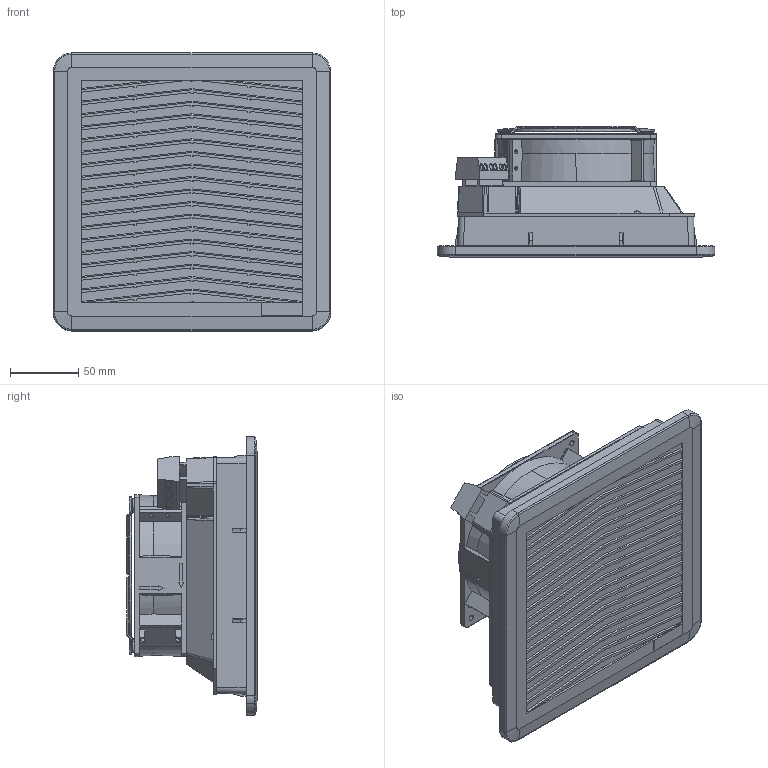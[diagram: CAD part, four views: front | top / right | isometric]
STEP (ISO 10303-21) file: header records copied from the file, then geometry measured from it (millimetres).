
FILE_DESCRIPTION (( 'STEP AP214' ), '1' );
FILE_NAME ('FF13PAxxxyFR.STEP', '2023-10-04T06:32:16', ( '' ), ( '' ), 'SwSTEP 2.0', 'SolidWorks 2022', '' );
FILE_SCHEMA (( 'AUTOMOTIVE_DESIGN' ));
Length unit declared in the file: millimetre
Products named in the file (11): 040013_LK_980-01-3_morsettiera semplificata; DT-02424DSI_P13(x)FPF-ALL Semplificata; DT-00244DSI_Semplificato; DT-01853DSI_Semplificata; FF13PAxxxyFR; DT-03325DSI_Default semplificata; DT-01131DSI_Assieme semplificato; DT-03468DSI_x montaggio A12R12HWBWQ135 SEMPLIFICATA; DT-04082DSI_mostrina semplificata; DT-00243DSI_Semplificata; A12R23HWBWnnn_Cavi per morsettiera SEMPLIFICATO
Assembly tree (10 placements, depth 3):
  FF13PAxxxyFR
    DT-02424DSI_P13(x)FPF-ALL Semplificata
    DT-03468DSI_x montaggio A12R12HWBWQ135 SEMPLIFICATA
      A12R23HWBWnnn_Cavi per morsettiera SEMPLIFICATO
      DT-03325DSI_Default semplificata
    DT-01853DSI_Semplificata
    040013_LK_980-01-3_morsettiera semplificata
    DT-01131DSI_Assieme semplificato
      DT-00244DSI_Semplificato
      DT-00243DSI_Semplificata
      DT-04082DSI_mostrina semplificata
Bounding box: 203.81 x 95.77 x 204.22 mm (x, y, z)
Volume: 1687274.1 mm3; surface area: 347297.4 mm2
Topology: 6 solids, 8 shells, 827 faces, 2346 edges, 1548 vertices
Faces by surface type: plane 575, cylinder 123, bspline 89, cone 25, sphere 10, torus 5
Entity records: 36599 total; most frequent: CARTESIAN_POINT 15105, ORIENTED_EDGE 4692, DIRECTION 3698, EDGE_CURVE 2346, VECTOR 1748, LINE 1748, VERTEX_POINT 1548, AXIS2_PLACEMENT_3D 975
